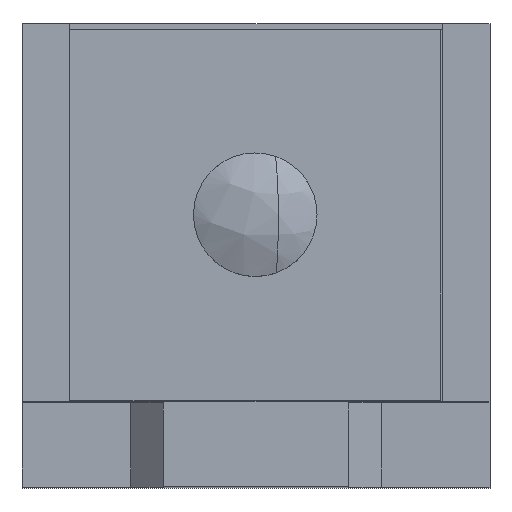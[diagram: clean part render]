
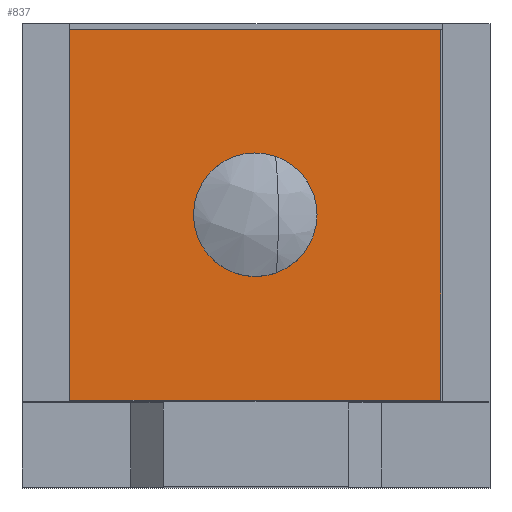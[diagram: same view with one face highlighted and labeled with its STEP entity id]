
A CAD part, top view. The second image highlights one B-rep face of the part: STEP entity #837.
In plain terms, the highlighted planar face has unit normal (0, 0, 1).
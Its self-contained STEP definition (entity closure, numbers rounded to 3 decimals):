
#76 = CARTESIAN_POINT ( 'NONE',  ( 3.95, 2.6, 67. ) ) ;
#79 = CARTESIAN_POINT ( 'NONE',  ( -0.05, 0.05, 67. ) ) ;
#87 = ORIENTED_EDGE ( 'NONE', *, *, #1739, .F. ) ;
#91 = CIRCLE ( 'NONE', #1694, 4. ) ;
#108 = EDGE_CURVE ( 'NONE', #1698, #263, #687, .T. ) ;
#196 = CARTESIAN_POINT ( 'NONE',  ( 11.95, 14.6, 67. ) ) ;
#204 = AXIS2_PLACEMENT_3D ( 'NONE', #726, #1795, #882 ) ;
#206 = EDGE_LOOP ( 'NONE', ( #608, #1556 ) ) ;
#233 = DIRECTION ( 'NONE',  ( -1., 0., 0. ) ) ;
#263 = VERTEX_POINT ( 'NONE', #196 ) ;
#279 = VECTOR ( 'NONE', #1096, 1000. ) ;
#290 = FACE_OUTER_BOUND ( 'NONE', #1931, .T. ) ;
#324 = EDGE_CURVE ( 'NONE', #1102, #1160, #1825, .T. ) ;
#356 = DIRECTION ( 'NONE',  ( 0., 1., 0. ) ) ;
#372 = DIRECTION ( 'NONE',  ( -1., 0., 0. ) ) ;
#379 = AXIS2_PLACEMENT_3D ( 'NONE', #79, #1166, #233 ) ;
#390 = EDGE_CURVE ( 'NONE', #459, #1321, #91, .T. ) ;
#459 = VERTEX_POINT ( 'NONE', #1190 ) ;
#461 = CARTESIAN_POINT ( 'NONE',  ( -12.05, -9.4, 67. ) ) ;
#465 = EDGE_CURVE ( 'NONE', #1321, #459, #1987, .T. ) ;
#553 = EDGE_CURVE ( 'NONE', #263, #1102, #1499, .T. ) ;
#579 = LINE ( 'NONE', #1883, #940 ) ;
#589 = DIRECTION ( 'NONE',  ( 0., -1., 0. ) ) ;
#608 = ORIENTED_EDGE ( 'NONE', *, *, #390, .F. ) ;
#687 = LINE ( 'NONE', #941, #279 ) ;
#713 = DIRECTION ( 'NONE',  ( 0., 0., 1. ) ) ;
#726 = CARTESIAN_POINT ( 'NONE',  ( -0.05, 2.6, 67. ) ) ;
#837 = ADVANCED_FACE ( 'NONE', ( #1518, #290 ), #1772, .F. ) ;
#882 = DIRECTION ( 'NONE',  ( -1., 0., 0. ) ) ;
#940 = VECTOR ( 'NONE', #356, 1000. ) ;
#941 = CARTESIAN_POINT ( 'NONE',  ( -0.05, 14.6, 67. ) ) ;
#955 = CARTESIAN_POINT ( 'NONE',  ( -12.05, 14.6, 67. ) ) ;
#1021 = CARTESIAN_POINT ( 'NONE',  ( -0.05, 2.6, 67. ) ) ;
#1044 = CARTESIAN_POINT ( 'NONE',  ( 11.95, 0.05, 67. ) ) ;
#1078 = ORIENTED_EDGE ( 'NONE', *, *, #108, .F. ) ;
#1096 = DIRECTION ( 'NONE',  ( 1., 0., 0. ) ) ;
#1102 = VERTEX_POINT ( 'NONE', #1220 ) ;
#1132 = ORIENTED_EDGE ( 'NONE', *, *, #324, .F. ) ;
#1133 = DIRECTION ( 'NONE',  ( -1., 0., 0. ) ) ;
#1160 = VERTEX_POINT ( 'NONE', #461 ) ;
#1166 = DIRECTION ( 'NONE',  ( 0., 0., -1. ) ) ;
#1190 = CARTESIAN_POINT ( 'NONE',  ( -4.05, 2.6, 67. ) ) ;
#1220 = CARTESIAN_POINT ( 'NONE',  ( 11.95, -9.4, 67. ) ) ;
#1321 = VERTEX_POINT ( 'NONE', #76 ) ;
#1369 = VECTOR ( 'NONE', #1133, 1000. ) ;
#1499 = LINE ( 'NONE', #1044, #1847 ) ;
#1518 = FACE_BOUND ( 'NONE', #206, .T. ) ;
#1556 = ORIENTED_EDGE ( 'NONE', *, *, #465, .F. ) ;
#1694 = AXIS2_PLACEMENT_3D ( 'NONE', #1021, #713, #372 ) ;
#1695 = ORIENTED_EDGE ( 'NONE', *, *, #553, .F. ) ;
#1698 = VERTEX_POINT ( 'NONE', #955 ) ;
#1739 = EDGE_CURVE ( 'NONE', #1160, #1698, #579, .T. ) ;
#1772 = PLANE ( 'NONE',  #379 ) ;
#1795 = DIRECTION ( 'NONE',  ( 0., 0., 1. ) ) ;
#1825 = LINE ( 'NONE', #1893, #1369 ) ;
#1847 = VECTOR ( 'NONE', #589, 1000. ) ;
#1883 = CARTESIAN_POINT ( 'NONE',  ( -12.05, 0.05, 67. ) ) ;
#1893 = CARTESIAN_POINT ( 'NONE',  ( -0.05, -9.4, 67. ) ) ;
#1931 = EDGE_LOOP ( 'NONE', ( #1132, #1695, #1078, #87 ) ) ;
#1987 = CIRCLE ( 'NONE', #204, 4. ) ;
